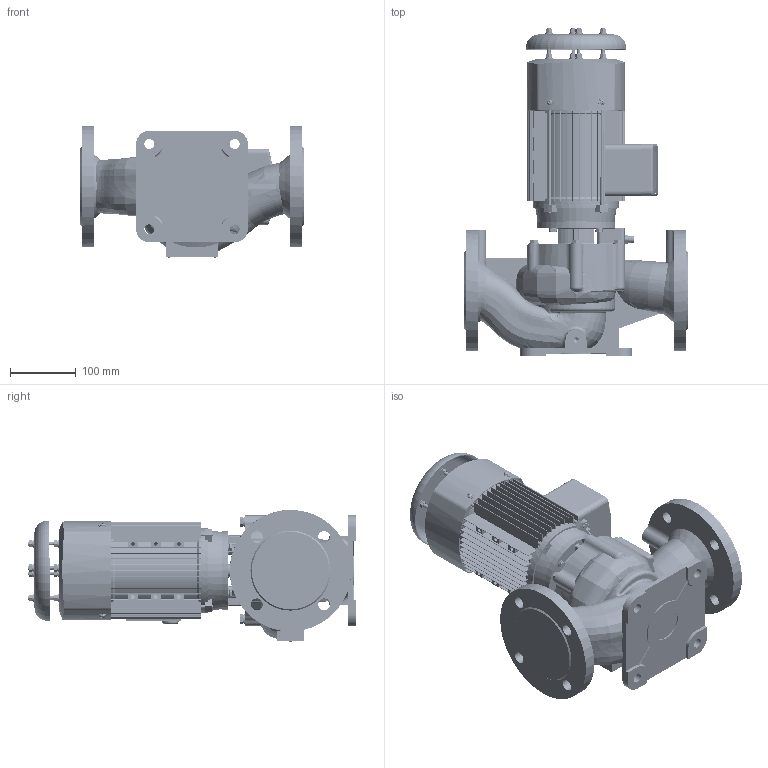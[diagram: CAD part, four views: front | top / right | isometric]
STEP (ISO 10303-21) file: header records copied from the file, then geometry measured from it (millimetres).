
FILE_DESCRIPTION (( 'STEP AP214' ), '1' );
FILE_NAME ('LLT65-5-1.1.STEP', '2020-08-28T01:05:17', ( 'cnp' ), ( '' ), 'SwSTEP 2.0', 'SolidWorks 2018', '' );
FILE_SCHEMA (( 'AUTOMOTIVE_DESIGN' ));
Length unit declared in the file: millimetre
Products named in the file (31): 平垫圈8; 平垫圈6; GB╱T 5783-2016[六角头螺栓 全螺纹M8×30]_M8×30; GB╱T 5783-2016[六角头螺栓 全螺纹M6×25]_M6×25; YE3-80-IMV18 萇儂 滅迾欶; LLT65; GB╱T 5783-2016[六角头螺栓 全螺纹M6×25]; GB╱T 5783-2016[六角头螺栓 全螺纹M8×30]; LLT65掙芛; LLT65-5-1.1
Assembly tree (23 placements, depth 2):
  平垫圈8
  平垫圈8
  平垫圈8
  平垫圈8
  平垫圈8
Bounding box: 340 x 500.13 x 201.4 mm (x, y, z)
Volume: 5047358.6 mm3; surface area: 1159322.3 mm2
Topology: 31 solids, 102 shells, 5908 faces, 15797 edges, 10365 vertices
Faces by surface type: plane 3118, bspline 1145, cylinder 954, cone 568, torus 105, sphere 18
Full cylindrical faces by diameter (mm): 1.1 x1, 1.3 x1, 2 x7, 3 x1, 3.3 x11, 3.4 x8, 4 x10, 4.3 x8, 4.5 x8, 5 x34, 5.196 x4, 5.5 x6, 5.8 x4, 6 x159, 6.4 x20, 6.5 x4, 7 x4, 8 x16, 8.4 x6, 8.5 x2, 9 x8, 9.5 x1, 10 x12, 11 x1, 11.8 x2, 12 x28, 14.4 x1, 15 x4, 15.25 x2, 16 x6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
Entity records: 310505 total; most frequent: CARTESIAN_POINT 114341, ORIENTED_EDGE 29438, DIRECTION 22697, EDGE_CURVE 14729, VERTEX_POINT 10026, VECTOR 8301, LINE 8301, AXIS2_PLACEMENT_3D 7198
